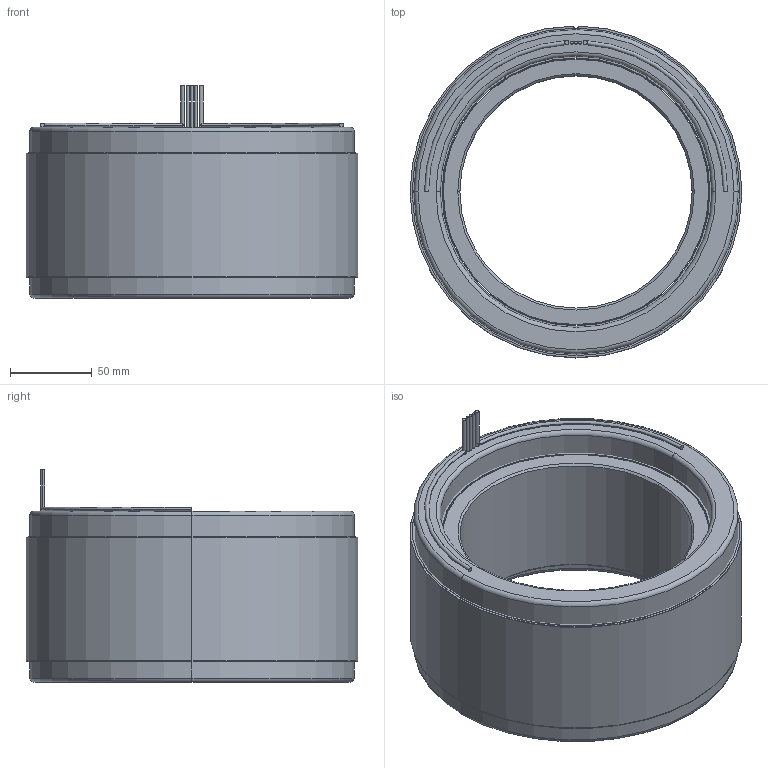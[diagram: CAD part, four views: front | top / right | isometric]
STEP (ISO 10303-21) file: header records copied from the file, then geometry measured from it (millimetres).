
FILE_DESCRIPTION (( 'STEP AP214' ), '1' );
FILE_NAME ('6100326-05.STEP', '2019-10-23T23:26:00', ( '' ), ( '' ), 'SwSTEP 2.0', 'SolidWorks 2016', '' );
FILE_SCHEMA (( 'AUTOMOTIVE_DESIGN' ));
Length unit declared in the file: millimetre
Products named in the file (11): 4400075-00; 4600534-00; COMP4500534-XX(COIL)_COMP4500534-05; 4450161-XX_4450161-05; 6100326-05; 4150150-XX_4150150-05; 4250358-XX_4250358-05; 4500534-XX_4500534-05
Assembly tree (10 placements, depth 4):
  6100326-05
    4500534-XX_4500534-05
      4450161-XX_4450161-05
        4450161-XX_4450161-05
        4400075-00
        4400075-00
        4600534-00
        4600534-00
      COMP4500534-XX(COIL)_COMP4500534-05
    4250358-XX_4250358-05
      4150150-XX_4150150-05
Bounding box: 203.2 x 203.19 x 130.05 mm (x, y, z)
Volume: 2201192.2 mm3; surface area: 419611.4 mm2
Topology: 14 solids, 14 shells, 94 faces, 186 edges, 120 vertices
Faces by surface type: cylinder 50, plane 28, torus 12, cone 4
Entity records: 2985 total; most frequent: DIRECTION 538, CARTESIAN_POINT 416, ORIENTED_EDGE 372, AXIS2_PLACEMENT_3D 242, EDGE_CURVE 186, CIRCLE 132, VERTEX_POINT 120, EDGE_LOOP 108
